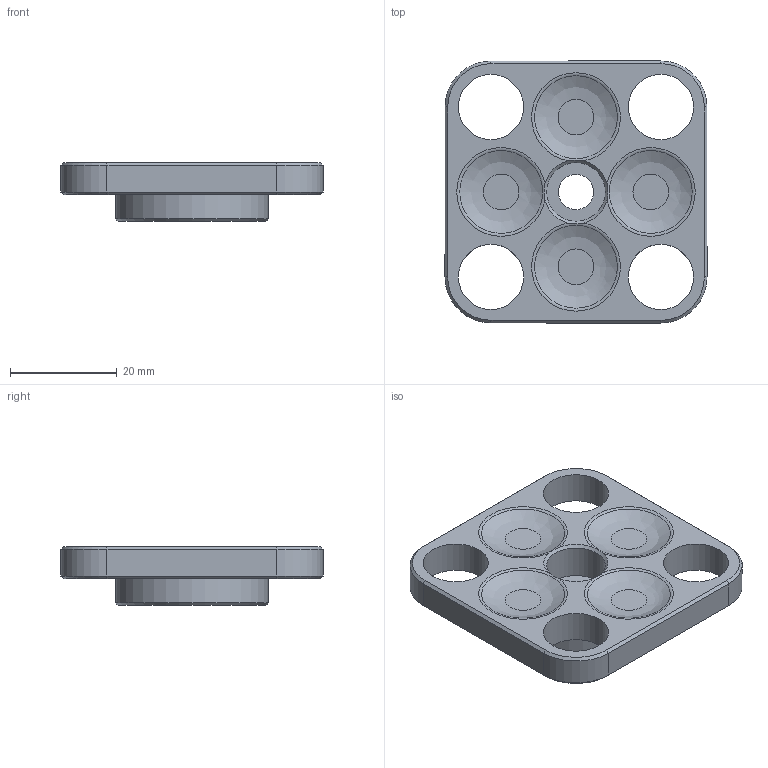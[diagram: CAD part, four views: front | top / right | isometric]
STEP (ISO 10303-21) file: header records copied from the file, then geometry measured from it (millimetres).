
FILE_DESCRIPTION(/* description */ (''),/* implementation_level */ '2;1');
FILE_NAME(/* name */ 'C:/Users/russ/3D Objects/Bike/F3 Stem Cap.step',/* time_stamp */ '2020-07-11T12:37:11+01:00',/* author */ (''),/* organization */ (''),/* preprocessor_version */ 'ST-DEVELOPER v18.1',/* originating_system */ 'Autodesk Translation Framework v9.3.0.1241',/* authorisation */ '');
FILE_SCHEMA (('AUTOMOTIVE_DESIGN { 1 0 10303 214 3 1 1 }'));
Length unit declared in the file: millimetre
Products named in the file (1): Stem Cap
Bounding box: 49.03 x 49.03 x 11 mm (x, y, z)
Volume: 12770.1 mm3; surface area: 6361.7 mm2
Topology: 1 solids, 1 shells, 49 faces, 114 edges, 69 vertices
Faces by surface type: plane 20, cylinder 11, cone 10, torus 4, bspline 4
Full cylindrical faces by diameter (mm): 6.6 x1, 11 x1, 12.2 x4, 28.6 x1
Entity records: 1618 total; most frequent: CARTESIAN_POINT 427, DIRECTION 259, ORIENTED_EDGE 228, EDGE_CURVE 114, AXIS2_PLACEMENT_3D 105, VERTEX_POINT 69, EDGE_LOOP 61, CIRCLE 59
